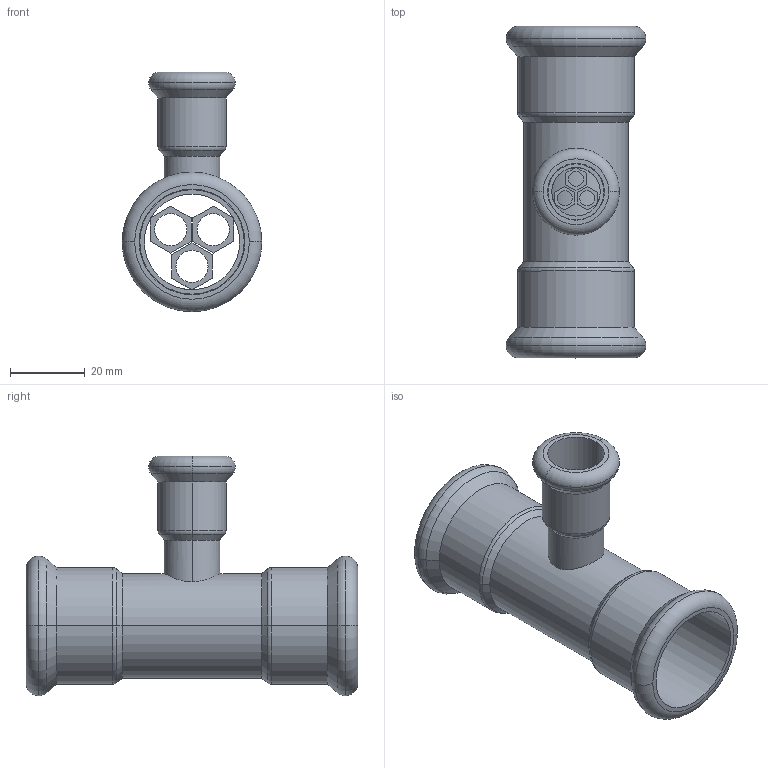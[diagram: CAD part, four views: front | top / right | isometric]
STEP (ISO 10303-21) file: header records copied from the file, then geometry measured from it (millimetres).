
FILE_DESCRIPTION(('OneSpaceDesigner STEP Export'),'2;1');
FILE_NAME('R2715 28x15x28.stp','2010-06-10T 8:58:17',(''),(''),'OneSpace Designer STEP processor for AP214 (Solid Model)','OneSpace Modeling 15.00A 14-Mar-2007 (C) CoCreate Software GmbH','');
FILE_SCHEMA(('AUTOMOTIVE_DESIGN { 1 0 10303 214 1 1 1 1 }'));
Length unit declared in the file: millimetre
Products named in the file (2): R2715_28x15x28
Assembly tree (1 placements, depth 2):
  R2715_28x15x28
    R2715_28x15x28
Bounding box: 37.45 x 89 x 64.22 mm (x, y, z)
Volume: 18661.4 mm3; surface area: 22728.2 mm2
Topology: 1 solids, 1 shells, 174 faces, 429 edges, 274 vertices
Faces by surface type: plane 90, cylinder 54, torus 18, cone 12
Entity records: 5614 total; most frequent: CARTESIAN_POINT 1729, ORIENTED_EDGE 858, DIRECTION 707, EDGE_CURVE 429, VERTEX_POINT 274, VECTOR 263, LINE 263, AXIS2_PLACEMENT_3D 222
